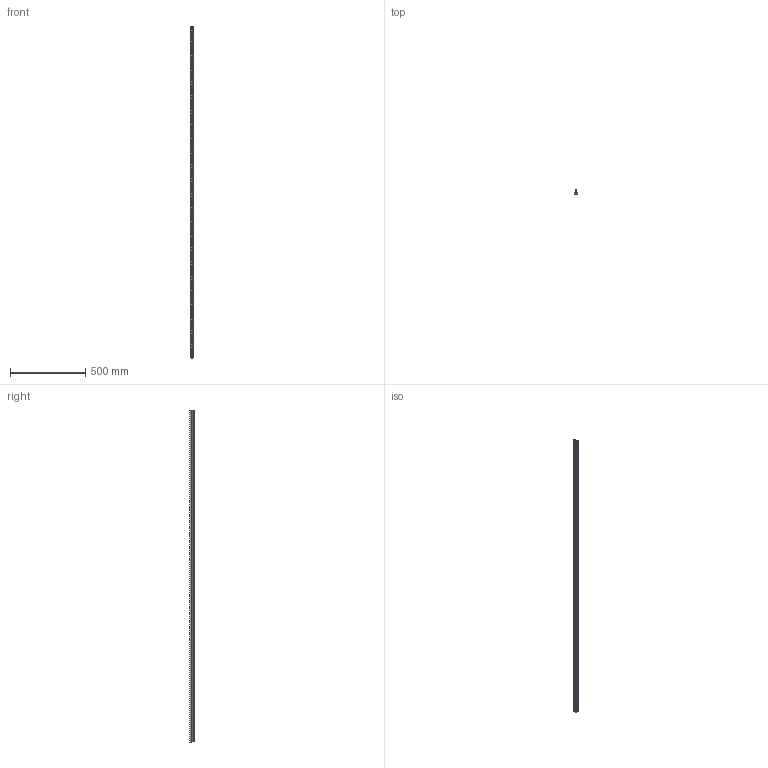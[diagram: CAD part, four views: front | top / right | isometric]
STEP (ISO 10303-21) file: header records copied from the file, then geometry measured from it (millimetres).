
FILE_DESCRIPTION (( 'STEP AP203' ), '1' );
FILE_NAME ('LFS-12-11_-_LFS-12-11 L=2198 - ArtNr 220002 2198.step', '2015-05-04T10:56:32', ( '' ), ( '' ), 'SwSTEP 2.0', 'SolidWorks 2014', '' );
FILE_SCHEMA (( 'CONFIG_CONTROL_DESIGN' ));
Length unit declared in the file: millimetre
Products named in the file (1): LFS-12-11_-_LFS-12-11 L=2198 - ArtNr 220002 2198
Bounding box: 20 x 31 x 2200 mm (x, y, z)
Volume: 664972.4 mm3; surface area: 297268.6 mm2
Topology: 1 solids, 1 shells, 1498 faces, 4008 edges, 2554 vertices
Faces by surface type: cylinder 719, plane 691, cone 44, torus 44
Full cylindrical faces by diameter (mm): 7 x44, 8 x44, 12 x1
Entity records: 47980 total; most frequent: CARTESIAN_POINT 14394, ORIENTED_EDGE 7484, DIRECTION 6069, EDGE_CURVE 3742, VERTEX_POINT 2465, AXIS2_PLACEMENT_3D 2060, VECTOR 1949, LINE 1949
